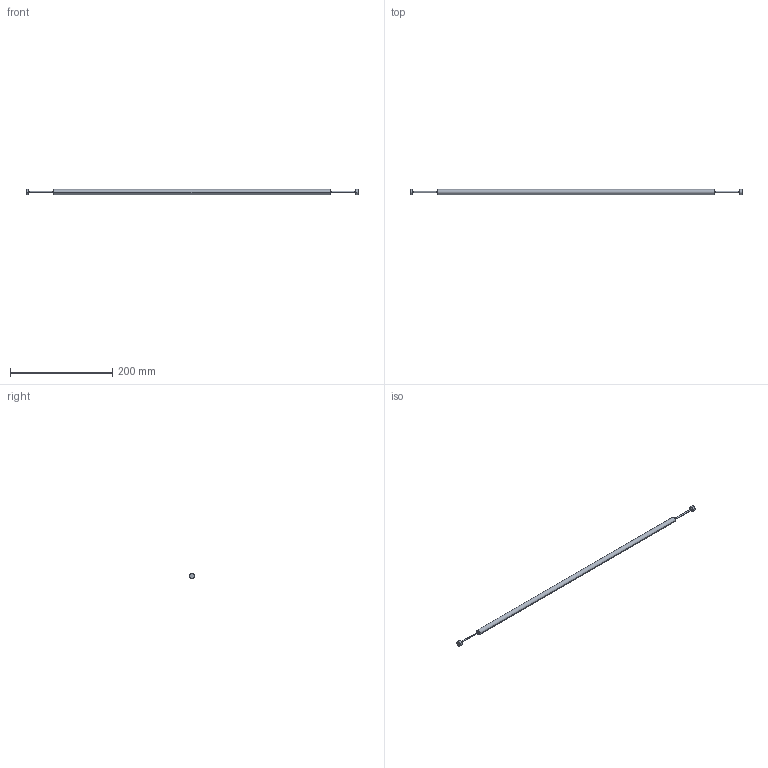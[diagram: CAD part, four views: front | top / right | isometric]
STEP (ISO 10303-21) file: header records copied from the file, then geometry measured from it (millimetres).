
FILE_DESCRIPTION(('CATIA V5 STEP Exchange'),'2;1');
FILE_NAME('F:\Stages\Stage 4A\ETEST-Liège\Documentations\Drawings\STEP\MS - Mirror Suspension\MS - Suspension Rod.stp','2021-12-13T13:11:04+00:00',('none'),('none'),'CATIA Version 5 Release 19 GA (IN-10)','CATIA V5 STEP AP214','none');
FILE_SCHEMA(('AUTOMOTIVE_DESIGN { 1 0 10303 214 1 1 1 1 }'));
Length unit declared in the file: millimetre
Products named in the file (1): MS - Suspension Rod
Bounding box: 648 x 10 x 10 mm (x, y, z)
Volume: 43733.8 mm3; surface area: 18479.4 mm2
Topology: 1 solids, 1 shells, 24 faces, 46 edges, 28 vertices
Faces by surface type: cylinder 10, torus 8, plane 6
Entity records: 578 total; most frequent: CARTESIAN_POINT 93, ORIENTED_EDGE 92, DIRECTION 82, AXIS2_PLACEMENT_3D 55, EDGE_CURVE 46, CIRCLE 36, EDGE_LOOP 28, VERTEX_POINT 28
